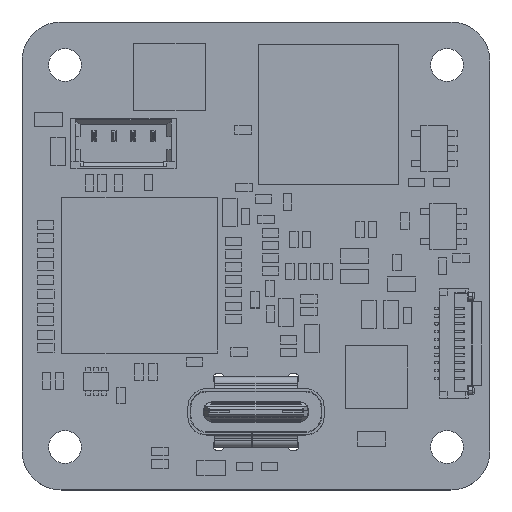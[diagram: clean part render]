
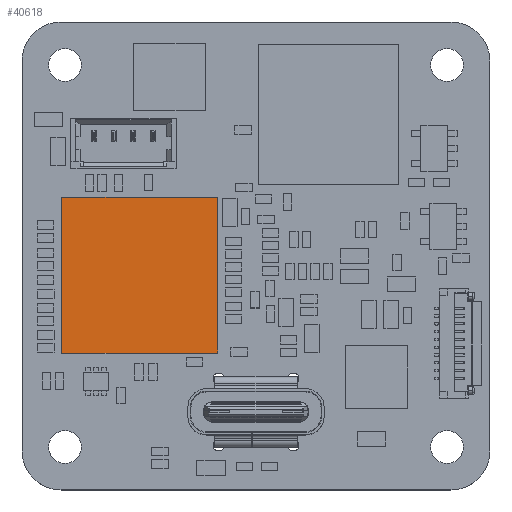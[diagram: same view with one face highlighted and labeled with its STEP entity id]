
A CAD part, top view. The second image highlights one B-rep face of the part: STEP entity #40618.
In plain terms, the highlighted planar face has unit normal (0, 0, 1).
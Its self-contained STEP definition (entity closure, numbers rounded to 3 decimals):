
#40489 = VERTEX_POINT('',#40490);
#40490 = CARTESIAN_POINT('',(12.544,8.78,1.2)
  );
#40496 = EDGE_CURVE('',#40489,#40497,#40499,.T.);
#40497 = VERTEX_POINT('',#40498);
#40498 = CARTESIAN_POINT('',(12.544,18.78,1.2)
  );
#40499 = LINE('',#40500,#40501);
#40500 = CARTESIAN_POINT('',(12.544,8.78,1.2)
  );
#40501 = VECTOR('',#40502,1.);
#40502 = DIRECTION('',(0.,1.,0.));
#40527 = EDGE_CURVE('',#40497,#40528,#40530,.T.);
#40528 = VERTEX_POINT('',#40529);
#40529 = CARTESIAN_POINT('',(2.544,18.78,1.2)
  );
#40530 = LINE('',#40531,#40532);
#40531 = CARTESIAN_POINT('',(12.544,18.78,1.2)
  );
#40532 = VECTOR('',#40533,1.);
#40533 = DIRECTION('',(-1.,0.,0.));
#40558 = EDGE_CURVE('',#40528,#40559,#40561,.T.);
#40559 = VERTEX_POINT('',#40560);
#40560 = CARTESIAN_POINT('',(2.544,8.78,1.2));
#40561 = LINE('',#40562,#40563);
#40562 = CARTESIAN_POINT('',(2.544,18.78,1.2)
  );
#40563 = VECTOR('',#40564,1.);
#40564 = DIRECTION('',(0.,-1.,0.));
#40589 = EDGE_CURVE('',#40559,#40489,#40590,.T.);
#40590 = LINE('',#40591,#40592);
#40591 = CARTESIAN_POINT('',(2.544,8.78,1.2));
#40592 = VECTOR('',#40593,1.);
#40593 = DIRECTION('',(1.,0.,0.));
#40618 = ADVANCED_FACE('',(#40619),#40625,.F.);
#40619 = FACE_BOUND('',#40620,.T.);
#40620 = EDGE_LOOP('',(#40621,#40622,#40623,#40624));
#40621 = ORIENTED_EDGE('',*,*,#40496,.T.);
#40622 = ORIENTED_EDGE('',*,*,#40527,.T.);
#40623 = ORIENTED_EDGE('',*,*,#40558,.T.);
#40624 = ORIENTED_EDGE('',*,*,#40589,.T.);
#40625 = PLANE('',#40626);
#40626 = AXIS2_PLACEMENT_3D('',#40627,#40628,#40629);
#40627 = CARTESIAN_POINT('',(12.544,8.78,1.2)
  );
#40628 = DIRECTION('',(0.,0.,-1.));
#40629 = DIRECTION('',(-1.,0.,0.));
